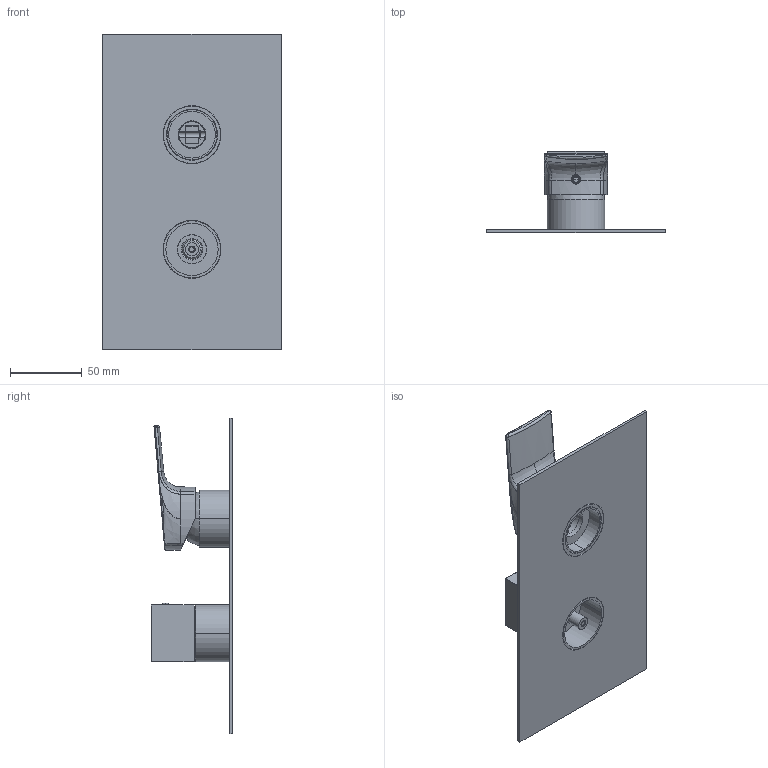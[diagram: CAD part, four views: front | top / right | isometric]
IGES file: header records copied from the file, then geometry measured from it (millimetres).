
Start section:  PTC IGES file: 75523V2.igs
Global section: file name: 75523V2.igs; native system: Creo Parametric by PTC Inc.; preprocessor: 2025443; author: carloff; organization: Unknown; date: 20261008.104050; units: millimetre
Bounding box: 125 x 57 x 220 mm (x, y, z)
Surface area: 111234.1 mm2 (no closed solid volume)
Topology: 0 solids, 0 shells, 877 faces, 4756 edges, 4750 vertices
Faces by surface type: revolution 536, bspline 341
